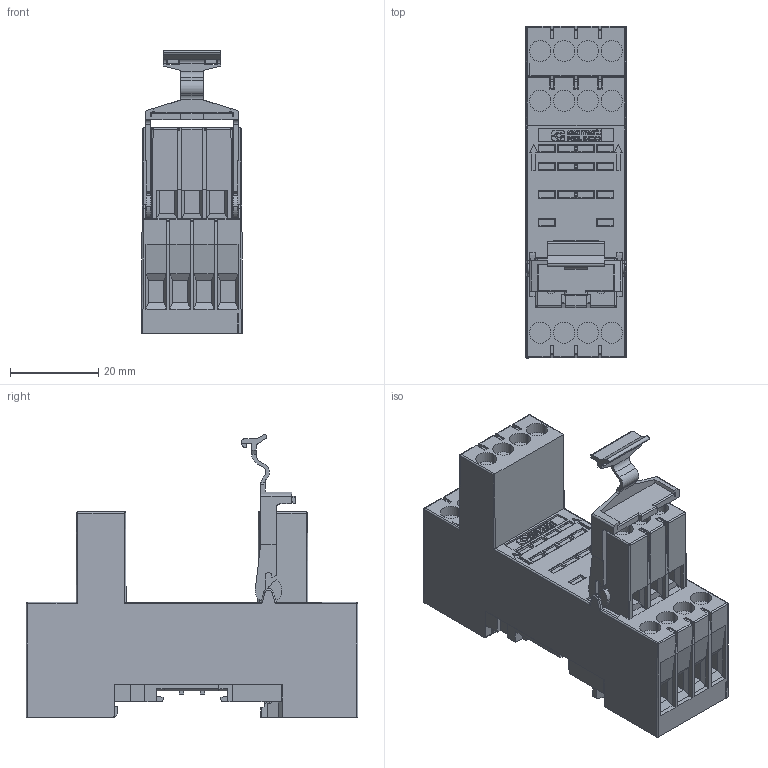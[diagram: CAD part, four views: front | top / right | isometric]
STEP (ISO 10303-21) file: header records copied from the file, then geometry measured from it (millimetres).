
FILE_DESCRIPTION (( 'STEP AP214' ), '1' );
FILE_NAME ('S9-M.STEP', '2024-04-15T09:15:27', ( '' ), ( '' ), 'SwSTEP 2.0', 'SolidWorks 2022', '' );
FILE_SCHEMA (( 'AUTOMOTIVE_DESIGN' ));
Length unit declared in the file: millimetre
Products named in the file (1): S9-M
Bounding box: 22.8 x 75 x 63.95 mm (x, y, z)
Volume: 45525.9 mm3; surface area: 18810.9 mm2
Topology: 1 solids, 6 shells, 1565 faces, 4220 edges, 2689 vertices
Faces by surface type: plane 1235, cylinder 228, bspline 98, sphere 4
Entity records: 56451 total; most frequent: CARTESIAN_POINT 11717, ORIENTED_EDGE 8432, DIRECTION 7075, EDGE_CURVE 4216, LINE 3613, VECTOR 3613, VERTEX_POINT 2689, AXIS2_PLACEMENT_3D 1731
